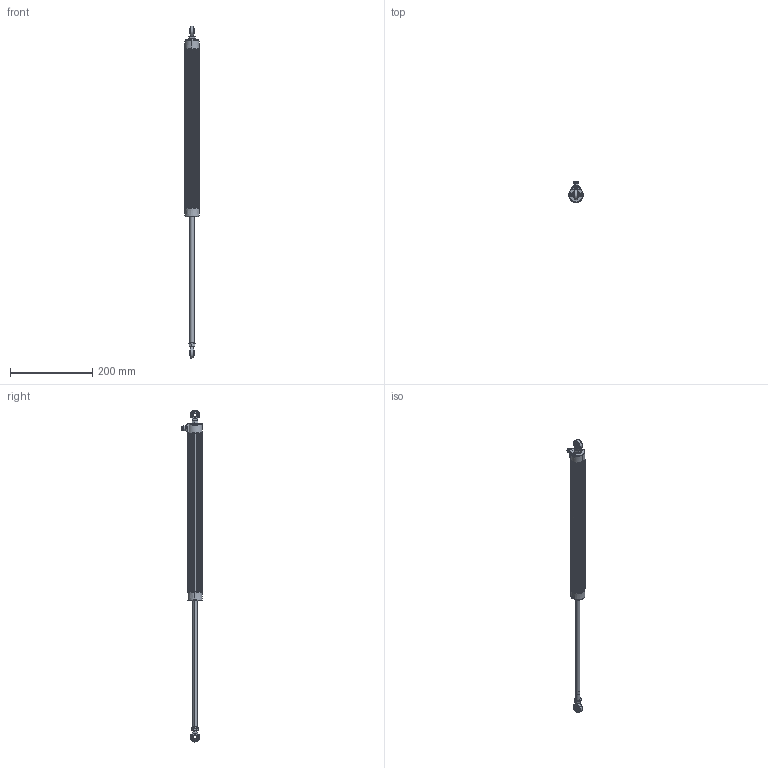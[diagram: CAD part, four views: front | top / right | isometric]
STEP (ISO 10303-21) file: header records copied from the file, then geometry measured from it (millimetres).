
FILE_DESCRIPTION (( 'STEP AP214' ), '1' );
FILE_NAME ('0300.STEP', '2009-01-29T10:04:34', ( 'novotechnik' ), ( 'novotechnik' ), 'SwSTEP 2.0', 'SolidWorks 2009', '' );
FILE_SCHEMA (( 'AUTOMOTIVE_DESIGN' ));
Length unit declared in the file: millimetre
Products named in the file (3): 0300; 0300_Bew
Assembly tree (2 placements, depth 2):
  0300
    0300_Bew
    0300
Bounding box: 35.03 x 49.52 x 806.6 mm (x, y, z)
Volume: 435068.4 mm3; surface area: 94112.3 mm2
Topology: 16 solids, 16 shells, 996 faces, 2527 edges, 1581 vertices
Faces by surface type: cylinder 326, plane 294, bspline 187, cone 169, torus 12, sphere 8
Entity records: 50868 total; most frequent: CARTESIAN_POINT 17017, ORIENTED_EDGE 5026, DIRECTION 4525, EDGE_CURVE 2513, AXIS2_PLACEMENT_3D 1757, VERTEX_POINT 1581, EDGE_LOOP 1064, VECTOR 1011
